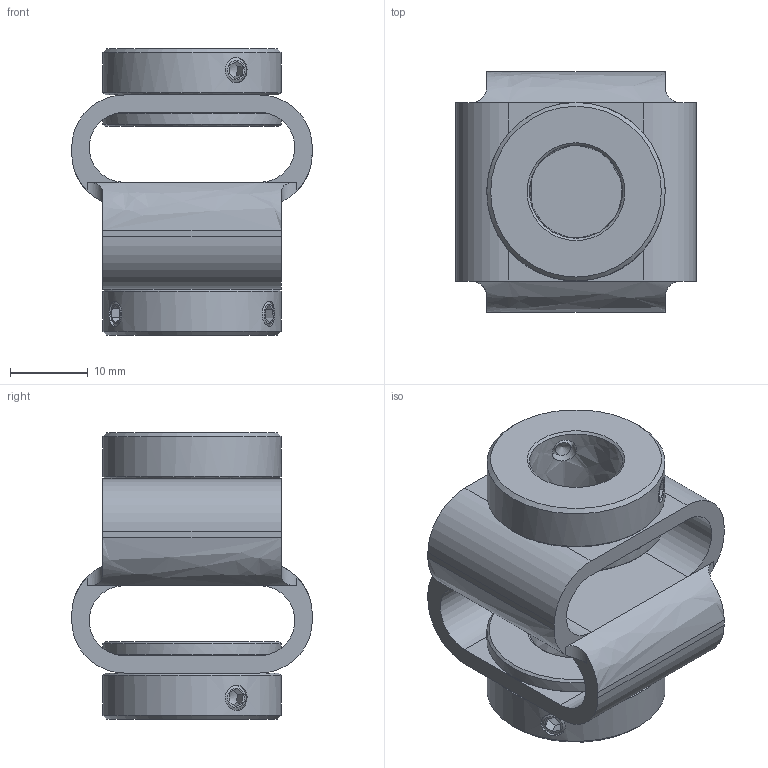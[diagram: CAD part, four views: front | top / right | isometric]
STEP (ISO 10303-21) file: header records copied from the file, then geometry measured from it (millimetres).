
FILE_DESCRIPTION((''),'2;1');
FILE_NAME('Z:\ABP-Antriebstechnik\Entwicklung-3D\Paguflex\Internet_Daten\DKPS 3835 12 12.stp','2011-10-21T13:38:03',('t006'),(''),'Autodesk Inventor 10','Autodesk Inventor 10','');
FILE_SCHEMA(('AUTOMOTIVE_DESIGN { 1 0 10303 214 1 1 1 1 }'));
Length unit declared in the file: millimetre
Products named in the file (1): DKPS 3835 12 12
Bounding box: 31 x 31 x 36.9 mm (x, y, z)
Volume: 10599.4 mm3; surface area: 7909.6 mm2
Topology: 1 solids, 3 shells, 146 faces, 356 edges, 216 vertices
Faces by surface type: plane 82, cone 30, cylinder 20, bspline 14
Full cylindrical faces by diameter (mm): 14 x2, 15 x2, 23 x4
Entity records: 4452 total; most frequent: CARTESIAN_POINT 1448, DIRECTION 618, ORIENTED_EDGE 556, EDGE_CURVE 278, AXIS2_PLACEMENT_3D 239, EDGE_LOOP 202, VERTEX_POINT 182, FACE_OUTER_BOUND 146
